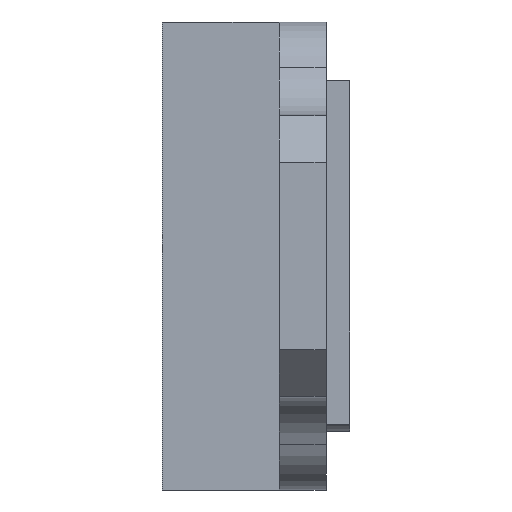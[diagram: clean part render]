
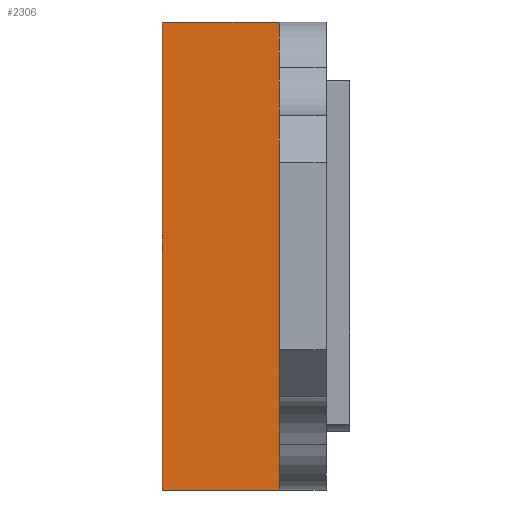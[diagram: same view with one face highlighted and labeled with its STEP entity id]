
A CAD part, left-side view. The second image highlights one B-rep face of the part: STEP entity #2306.
In plain terms, the highlighted planar face has unit normal (-1, 0, 0).
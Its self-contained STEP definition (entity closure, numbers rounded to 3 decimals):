
#13 = CARTESIAN_POINT ( 'NONE',  ( -6.8, 2., -15.099 ) ) ;
#23 = EDGE_CURVE ( 'NONE', #2361, #1592, #645, .T. ) ;
#56 = ORIENTED_EDGE ( 'NONE', *, *, #23, .F. ) ;
#70 = ORIENTED_EDGE ( 'NONE', *, *, #1285, .T. ) ;
#108 = VECTOR ( 'NONE', #1542, 1000. ) ;
#181 = CARTESIAN_POINT ( 'NONE',  ( -6.8, 7., -10. ) ) ;
#196 = LINE ( 'NONE', #13, #1607 ) ;
#207 = LINE ( 'NONE', #1707, #2123 ) ;
#238 = VERTEX_POINT ( 'NONE', #1603 ) ;
#381 = DIRECTION ( 'NONE',  ( 0., -1., 0. ) ) ;
#407 = DIRECTION ( 'NONE',  ( 0., -1., 0. ) ) ;
#550 = LINE ( 'NONE', #1637, #1864 ) ;
#635 = DIRECTION ( 'NONE',  ( -1., 0., 0. ) ) ;
#645 = LINE ( 'NONE', #2302, #108 ) ;
#775 = DIRECTION ( 'NONE',  ( 0., 0., 1. ) ) ;
#865 = EDGE_CURVE ( 'NONE', #1592, #1536, #550, .T. ) ;
#936 = ORIENTED_EDGE ( 'NONE', *, *, #1627, .F. ) ;
#1011 = CARTESIAN_POINT ( 'NONE',  ( -6.8, 2., -10. ) ) ;
#1096 = CARTESIAN_POINT ( 'NONE',  ( -6.8, 7., 10. ) ) ;
#1190 = FACE_OUTER_BOUND ( 'NONE', #1762, .T. ) ;
#1285 = EDGE_CURVE ( 'NONE', #2361, #238, #196, .T. ) ;
#1439 = DIRECTION ( 'NONE',  ( 0., 0., 1. ) ) ;
#1536 = VERTEX_POINT ( 'NONE', #1096 ) ;
#1542 = DIRECTION ( 'NONE',  ( 0., 1., 0. ) ) ;
#1557 = PLANE ( 'NONE',  #1976 ) ;
#1592 = VERTEX_POINT ( 'NONE', #181 ) ;
#1603 = CARTESIAN_POINT ( 'NONE',  ( -6.8, 2., 10. ) ) ;
#1607 = VECTOR ( 'NONE', #775, 1000. ) ;
#1627 = EDGE_CURVE ( 'NONE', #1536, #238, #207, .T. ) ;
#1637 = CARTESIAN_POINT ( 'NONE',  ( -6.8, 7., -15.099 ) ) ;
#1707 = CARTESIAN_POINT ( 'NONE',  ( -6.8, 2., 10. ) ) ;
#1762 = EDGE_LOOP ( 'NONE', ( #56, #70, #936, #2204 ) ) ;
#1864 = VECTOR ( 'NONE', #1439, 1000. ) ;
#1976 = AXIS2_PLACEMENT_3D ( 'NONE', #2304, #635, #407 ) ;
#2123 = VECTOR ( 'NONE', #381, 1000. ) ;
#2204 = ORIENTED_EDGE ( 'NONE', *, *, #865, .F. ) ;
#2302 = CARTESIAN_POINT ( 'NONE',  ( -6.8, 2., -10. ) ) ;
#2304 = CARTESIAN_POINT ( 'NONE',  ( -6.8, 2., -15.099 ) ) ;
#2306 = ADVANCED_FACE ( 'NONE', ( #1190 ), #1557, .T. ) ;
#2361 = VERTEX_POINT ( 'NONE', #1011 ) ;
